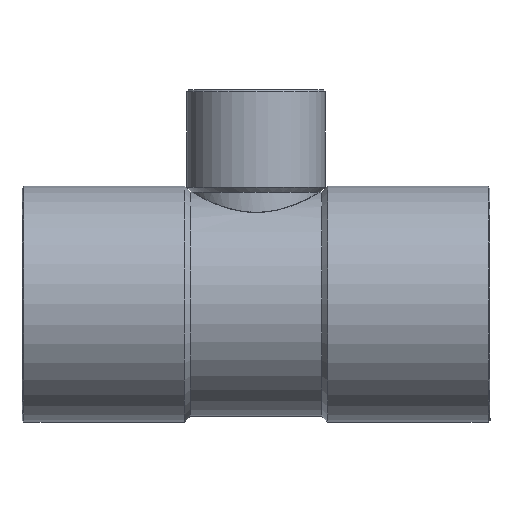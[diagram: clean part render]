
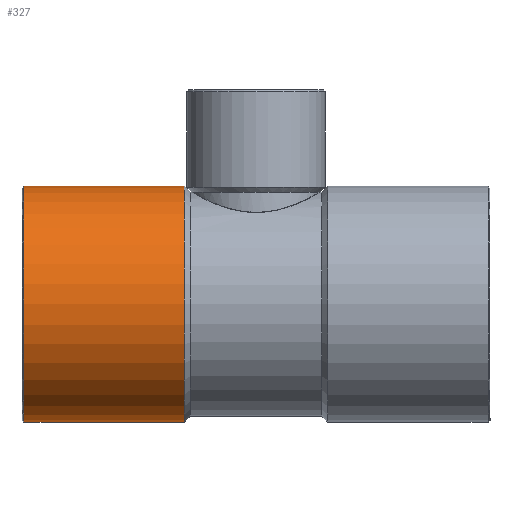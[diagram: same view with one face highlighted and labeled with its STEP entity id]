
A CAD part, top view. The second image highlights one B-rep face of the part: STEP entity #327.
In plain terms, the highlighted cylindrical face has radius 12.1 mm (diameter 24.2 mm), a partial arc.
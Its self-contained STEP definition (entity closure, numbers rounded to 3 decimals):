
#130=CARTESIAN_POINT('',(-7.34,12.1,0.0));
#131=VERTEX_POINT('',#130);
#138=CARTESIAN_POINT('',(-7.34,-12.1,0.));
#139=VERTEX_POINT('',#138);
#140=CARTESIAN_POINT('',(-7.34,0.0,0.0));
#141=DIRECTION('',(1.0,0.0,0.0));
#142=DIRECTION('',(0.0,1.0,0.0));
#143=AXIS2_PLACEMENT_3D('',#140,#141,#142);
#144=CIRCLE('',#143,12.1);
#145=EDGE_CURVE('',#131,#139,#144,.T.);
#296=CARTESIAN_POINT('',(-15.67,0.0,0.0));
#297=DIRECTION('',(1.0,0.0,0.0));
#298=DIRECTION('',(0.0,1.0,0.0));
#299=AXIS2_PLACEMENT_3D('',#296,#297,#298);
#300=CYLINDRICAL_SURFACE('',#299,12.1);
#301=CARTESIAN_POINT('',(-23.8,12.1,0.));
#302=VERTEX_POINT('',#301);
#303=CARTESIAN_POINT('',(-23.8,12.1,0.));
#304=DIRECTION('',(1.0,0.0,0.0));
#305=VECTOR('',#304,16.46);
#306=LINE('',#303,#305);
#307=EDGE_CURVE('',#302,#131,#306,.T.);
#308=ORIENTED_EDGE('',*,*,#307,.F.);
#309=CARTESIAN_POINT('',(-23.8,-12.1,0.));
#310=VERTEX_POINT('',#309);
#311=CARTESIAN_POINT('',(-23.8,0.0,0.0));
#312=DIRECTION('',(-1.0,0.0,0.0));
#313=DIRECTION('',(0.0,-1.0,0.0));
#314=AXIS2_PLACEMENT_3D('',#311,#312,#313);
#315=CIRCLE('',#314,12.1);
#316=EDGE_CURVE('',#310,#302,#315,.T.);
#317=ORIENTED_EDGE('',*,*,#316,.F.);
#318=CARTESIAN_POINT('',(-7.34,-12.1,0.));
#319=DIRECTION('',(-1.0,0.0,0.0));
#320=VECTOR('',#319,16.46);
#321=LINE('',#318,#320);
#322=EDGE_CURVE('',#139,#310,#321,.T.);
#323=ORIENTED_EDGE('',*,*,#322,.F.);
#324=ORIENTED_EDGE('',*,*,#145,.F.);
#325=EDGE_LOOP('',(#308,#317,#323,#324));
#326=FACE_OUTER_BOUND('',#325,.T.);
#327=ADVANCED_FACE('',(#326),#300,.T.);
